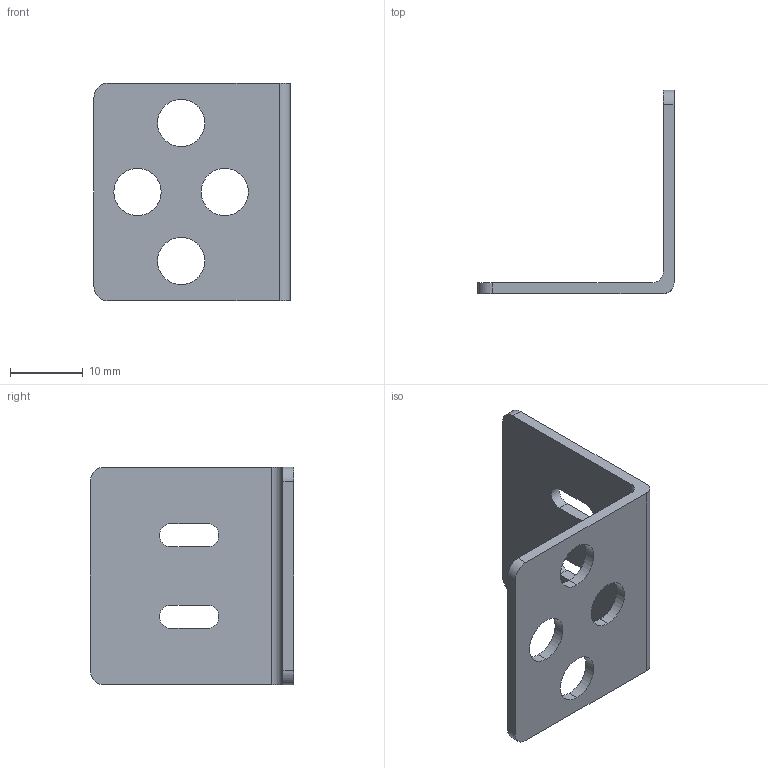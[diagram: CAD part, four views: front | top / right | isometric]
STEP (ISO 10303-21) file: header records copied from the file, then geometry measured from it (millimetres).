
FILE_DESCRIPTION (( 'STEP AP214' ), '1' );
FILE_NAME ('BHLX3 bracket L.STEP', '2021-11-08T01:12:43', ( '' ), ( '' ), 'SwSTEP 2.0', 'SolidWorks 2021', '' );
FILE_SCHEMA (( 'AUTOMOTIVE_DESIGN' ));
Length unit declared in the file: millimetre
Products named in the file (1): BHLX3 bracket L
Bounding box: 27 x 28 x 30 mm (x, y, z)
Volume: 2131.1 mm3; surface area: 3230.9 mm2
Topology: 1 solids, 1 shells, 30 faces, 84 edges, 56 vertices
Faces by surface type: cylinder 18, plane 12
Entity records: 1042 total; most frequent: DIRECTION 182, CARTESIAN_POINT 171, ORIENTED_EDGE 168, EDGE_CURVE 84, AXIS2_PLACEMENT_3D 67, VERTEX_POINT 56, VECTOR 48, LINE 48
